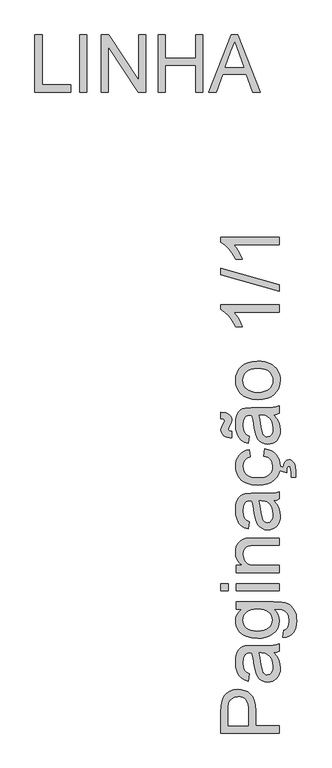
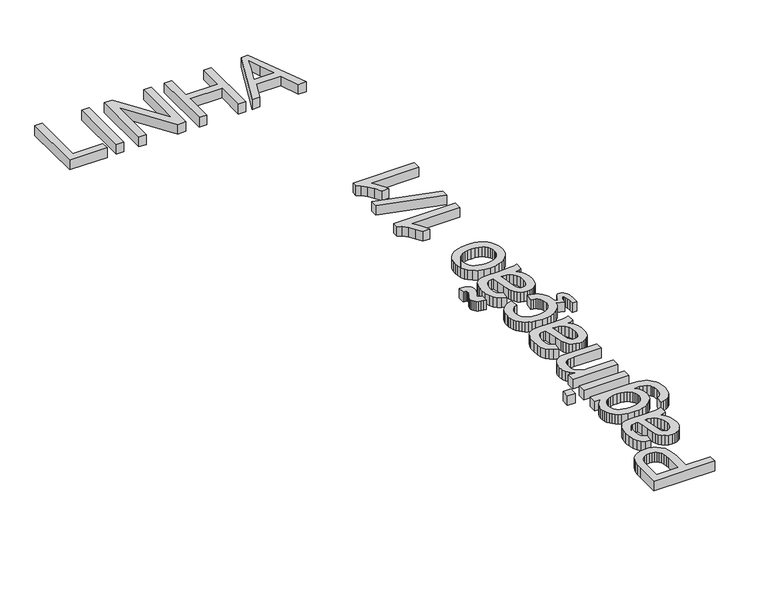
"""IFC4 building model written with IfcOpenShell, lengths in millimetres: proxy geometry, Tabela3D-1linha : Tabela3D-1linha."""

from ifc_helpers import new_model, si_unit, origin, origin_with_axes, place, context, project, spatial, polyline, outline, extrude, source, transform, mapped, element, save


def generic_models_127add15(model_context):
    return source(origin(), model_context, "Body", "SweptSolid", [
        extrude(outline(polyline([(2936.9308298, 7252.3459709), (2334.1929689, 7252.3459709), (2334.1929689, 7475.7239184), (2335.6277087, 7527.7424325), (2339.9319281, 7565.7814308), (2350.6556882, 7605.9357506), (2368.1116889, 7638.9899478), (2393.0908764, 7665.6062102), (2426.3841969, 7686.4467252), (2465.6555999, 7699.9112062), (2508.5690347, 7704.3993666), (2545.5687663, 7701.3689386), (2579.6070479, 7692.2776548), (2610.6838795, 7677.1255152), (2638.7992609, 7655.9125196), (2662.1045853, 7626.7900612), (2678.7512456, 7587.9095328), (2688.7392418, 7539.2709345), (2692.0685738, 7480.8742663), (2692.0685738, 7327.6882035), (2936.9308298, 7327.6882035), (2936.9308298, 7252.3459709)]), holes=[polyline([(2616.7263412, 7327.6882035), (2616.7263412, 7485.2888503), (2614.9972959, 7521.5252268), (2609.8101597, 7552.0962206), (2601.1649328, 7577.0018316), (2589.0616152, 7596.24206), (2573.8221035, 7610.5986549), (2555.7682946, 7620.8533655), (2534.9001885, 7627.0061918), (2511.217785, 7629.057134), (2477.3726415, 7624.2194857), (2448.8249986, 7609.706541), (2427.3406901, 7587.3209216), (2414.6855495, 7558.8652493), (2410.8227885, 7529.8025717), (2409.5352016, 7483.5230167), (2409.5352016, 7327.6882035), (2616.7263412, 7327.6882035)])]), origin_with_axes(), (0.0, 0.0, 1.0), 100.0),
        extrude(outline(polyline([(2880.4241554, 8081.1105296), (2911.2894548, 8045.1132764), (2931.4861763, 8008.0491654), (2942.6330008, 7969.072068), (2946.3486089, 7927.3358557), (2944.1137258, 7893.7896162), (2937.4090764, 7864.3728522), (2926.2346608, 7839.0855635), (2910.590479, 7817.9277503), (2891.4698123, 7801.2213092), (2869.8659421, 7789.288137), (2845.7788685, 7782.1282336), (2819.2085914, 7779.7415992), (2787.97541, 7783.3468427), (2759.6117082, 7794.1625734), (2735.3314965, 7810.8460219), (2716.3487855, 7832.0544189), (2702.0013877, 7856.9784241), (2691.6271155, 7884.808697), (2680.29635, 7949.9973866), (2668.3769734, 8027.0318763), (2654.3974575, 8080.6690712), (2637.6220386, 8081.1105296), (2603.9976242, 8075.9233935), (2591.5448187, 8069.4394733), (2581.9982809, 8060.3619851), (2572.4701372, 8044.671818), (2565.6643203, 8025.5603484), (2560.2196668, 7977.0735014), (2563.8433044, 7932.191898), (2574.7142174, 7900.848352), (2594.8189684, 7879.4744081), (2626.1441203, 7864.5016109), (2616.7263412, 7789.1593783), (2575.5235578, 7802.2375832), (2543.1499422, 7821.753723), (2518.3914839, 7849.5288137), (2500.0341724, 7887.383871), (2488.6666187, 7933.6818201), (2484.8774342, 7986.7855861), (2488.2251603, 8037.7188483), (2498.2683388, 8078.0938973), (2513.3698947, 8108.5361324), (2531.8927531, 8129.670953), (2554.7934073, 8143.687257), (2583.0283505, 8152.7739423), (2648.952804, 8156.4527623), (2742.6891364, 8156.4527623), (2873.5815503, 8160.278735), (2905.9367717, 8165.9441177), (2936.9308298, 8175.2883204), (2936.9308298, 8099.9460878), (2910.7376318, 8087.8795584), (2880.4241554, 8081.1105296)]), holes=[polyline([(2729.7396902, 8081.1105296), (2742.2844662, 8030.4899671), (2752.8426795, 7959.5623184), (2765.0563617, 7894.7415109), (2773.407283, 7877.8741214), (2784.9219894, 7865.3845277), (2798.7175643, 7857.6590058), (2813.9110907, 7855.0838318), (2836.3151042, 7860.6940322), (2854.6724157, 7877.5246335), (2866.9228862, 7905.2077536), (2871.0063763, 7943.3755106), (2866.4998219, 7983.8425301), (2852.9801585, 8019.60066), (2833.0593485, 8048.5897613), (2809.3493539, 8068.7496946), (2784.9219894, 8077.6892271), (2751.0768459, 8080.6690712), (2729.7396902, 8081.1105296)])]), origin_with_axes(), (0.0, 0.0, 1.0), 100.0),
        extrude(outline(polyline([(2974.6019461, 8241.2127739), (2984.0197252, 8316.5550066), (3007.5641729, 8324.8691396), (3023.7509807, 8340.982371), (3036.3325449, 8372.6570108), (3040.5263997, 8414.1173117), (3035.7807219, 8458.3367275), (3029.8486248, 8476.1973984), (3021.5436887, 8491.2253779), (2998.735005, 8514.0340616), (2968.2743758, 8528.0135774), (2935.8639721, 8532.0970675), (2880.4241554, 8533.1639253), (2905.1458255, 8508.0927673), (2922.8041612, 8480.1153416), (2933.3991627, 8449.2316481), (2936.9308298, 8415.4416869), (2932.8197485, 8374.1331373), (2920.4865047, 8337.7634036), (2899.9310982, 8306.3324856), (2871.1535291, 8279.8403834), (2836.6278039, 8258.8205259), (2798.8279288, 8243.806342), (2757.7539041, 8234.7978316), (2713.4057296, 8231.7949949), (2652.5764417, 8237.1844661), (2596.6399843, 8253.3528798), (2571.417075, 8265.3366358), (2549.2383892, 8279.7300188), (2530.1039269, 8296.533029), (2514.0136882, 8315.7456662), (2501.2665771, 8337.0598293), (2492.1614977, 8360.1674171), (2486.69845, 8385.0684296), (2484.8774342, 8411.7628669), (2488.9977125, 8446.996765), (2501.3585475, 8478.9749074), (2521.9599393, 8507.6972942), (2550.8018877, 8533.1639253), (2494.2952132, 8533.1639253), (2494.2952132, 8608.5061579), (2876.4510298, 8608.5061579), (2964.6875264, 8603.35581), (2997.5071989, 8596.9178751), (3022.7944875, 8587.9047662), (3043.1889456, 8576.1003527), (3061.3301265, 8561.2885038), (3077.2180302, 8543.4692197), (3090.8526566, 8522.6425002), (3101.797146, 8499.0198776), (3109.6146384, 8472.812884), (3114.3051338, 8444.0215194), (3115.8686323, 8412.6457837), (3113.6659388, 8375.733424), (3107.0578585, 8342.5458695), (3096.0443913, 8313.0831202), (3080.6255372, 8287.3451761), (3060.782902, 8266.5552449), (3036.4980918, 8251.9365341), (3007.7711065, 8243.4890438), (2974.6019461, 8241.2127739)]), holes=[polyline([(2708.2553816, 8307.1372275), (2745.5080322, 8309.1467829), (2777.3620144, 8315.1754491), (2803.8173284, 8325.2232261), (2824.8739741, 8339.2901139), (2840.9366217, 8356.3920281), (2852.4099414, 8375.5448845), (2859.2939333, 8396.748683), (2861.5885972, 8420.0034236), (2859.3077289, 8443.028238), (2852.4651237, 8464.1308689), (2841.0607819, 8483.3113164), (2825.0947033, 8500.5695805), (2804.2449912, 8514.8296064), (2778.1897489, 8525.0153391), (2746.9289764, 8531.1267788), (2710.4626736, 8533.1639253), (2675.5184826, 8531.0669979), (2645.1452254, 8524.7762158), (2619.3429019, 8514.291579), (2598.1115123, 8499.6130874), (2581.5338299, 8481.9823427), (2569.6926282, 8462.6409468), (2562.5879071, 8441.5888997), (2560.2196668, 8418.8262012), (2562.5511189, 8396.4451803), (2569.5454754, 8375.8024019), (2581.2027361, 8356.8978658), (2597.5229011, 8339.7315722), (2618.432394, 8325.4715464), (2643.8576384, 8315.2858137), (2673.7986343, 8309.174374), (2708.2553816, 8307.1372275)])]), origin_with_axes(), (0.0, 0.0, 1.0), 100.0),
        extrude(outline(polyline([(2409.5352016, 8721.5195068), (2334.1929689, 8721.5195068), (2334.1929689, 8796.8617395), (2409.5352016, 8796.8617395), (2409.5352016, 8721.5195068)])), origin_with_axes(), (0.0, 0.0, 1.0), 100.0),
        extrude(outline(polyline([(2936.9308298, 8721.5195068), (2494.2952132, 8721.5195068), (2494.2952132, 8796.8617395), (2936.9308298, 8796.8617395), (2936.9308298, 8721.5195068)])), origin_with_axes(), (0.0, 0.0, 1.0), 100.0),
        extrude(outline(polyline([(2936.9308298, 8909.8750884), (2494.2952132, 8909.8750884), (2494.2952132, 8985.217321), (2556.0993884, 8985.217321), (2524.9397834, 9011.3921249), (2502.6829227, 9042.8276414), (2489.3288063, 9079.5238704), (2484.8774342, 9121.480812), (2488.4642836, 9158.6184994), (2499.224832, 9192.6291899), (2515.81631, 9220.9928917), (2536.8959483, 9241.1896132), (2562.4085646, 9254.8932175), (2592.2989768, 9263.7775677), (2665.1396118, 9267.7506933), (2936.9308298, 9267.7506933), (2936.9308298, 9192.4084607), (2675.2931549, 9192.4084607), (2636.3344516, 9190.2379569), (2608.6329373, 9183.7264456), (2588.7857037, 9171.7150984), (2573.3898422, 9153.0450872), (2563.5122106, 9129.1143634), (2560.2196668, 9101.3208787), (2562.0682738, 9078.4432171), (2567.6140949, 9057.1934333), (2576.85713, 9037.5715274), (2589.7973792, 9019.5774993), (2607.9063704, 9004.5449213), (2632.6556316, 8993.8073656), (2664.0451629, 8987.3648321), (2702.0749641, 8985.217321), (2936.9308298, 8985.217321), (2936.9308298, 8909.8750884)])), origin_with_axes(), (0.0, 0.0, 1.0), 100.0),
        extrude(outline(polyline([(2880.4241554, 9653.8796354), (2911.2894548, 9617.8823822), (2931.4861763, 9580.8182712), (2942.6330008, 9541.8411738), (2946.3486089, 9500.1049614), (2944.1137258, 9466.558722), (2937.4090764, 9437.141958), (2926.2346608, 9411.8546693), (2910.590479, 9390.6968561), (2891.4698123, 9373.990415), (2869.8659421, 9362.0572427), (2845.7788685, 9354.8973394), (2819.2085914, 9352.510705), (2787.97541, 9356.1159485), (2759.6117082, 9366.9316792), (2735.3314965, 9383.6151277), (2716.3487855, 9404.8235247), (2702.0013877, 9429.7475299), (2691.6271155, 9457.5778028), (2680.29635, 9522.7664923), (2668.3769734, 9599.8009821), (2654.3974575, 9653.438177), (2637.6220386, 9653.8796354), (2603.9976242, 9648.6924993), (2591.5448187, 9642.2085791), (2581.9982809, 9633.1310909), (2572.4701372, 9617.4409238), (2565.6643203, 9598.3294541), (2560.2196668, 9549.8426072), (2563.8433044, 9504.9610038), (2574.7142174, 9473.6174578), (2594.8189684, 9452.2435139), (2626.1441203, 9437.2707167), (2616.7263412, 9361.928484), (2575.5235578, 9375.006689), (2543.1499422, 9394.5228288), (2518.3914839, 9422.2979195), (2500.0341724, 9460.1529768), (2488.6666187, 9506.4509259), (2484.8774342, 9559.5546919), (2488.2251603, 9610.4879541), (2498.2683388, 9650.8630031), (2513.3698947, 9681.3052382), (2531.8927531, 9702.4400588), (2554.7934073, 9716.4563628), (2583.0283505, 9725.5430481), (2648.952804, 9729.221868), (2742.6891364, 9729.221868), (2873.5815503, 9733.0478408), (2905.9367717, 9738.7132235), (2936.9308298, 9748.0574262), (2936.9308298, 9672.7151936), (2910.7376318, 9660.6486641), (2880.4241554, 9653.8796354)]), holes=[polyline([(2729.7396902, 9653.8796354), (2742.2844662, 9603.2590729), (2752.8426795, 9532.3314242), (2765.0563617, 9467.5106167), (2773.407283, 9450.6432272), (2784.9219894, 9438.1536334), (2798.7175643, 9430.4281115), (2813.9110907, 9427.8529376), (2836.3151042, 9433.463138), (2854.6724157, 9450.2937393), (2866.9228862, 9477.9768594), (2871.0063763, 9516.1446164), (2866.4998219, 9556.6116359), (2852.9801585, 9592.3697658), (2833.0593485, 9621.358867), (2809.3493539, 9641.5188004), (2784.9219894, 9650.4583329), (2751.0768459, 9653.438177), (2729.7396902, 9653.8796354)])]), origin_with_axes(), (0.0, 0.0, 1.0), 100.0),
        extrude(outline(polyline([(2776.8285855, 10115.3508102), (2786.2463646, 10190.6930428), (2821.7975609, 10182.4984713), (2853.25607, 10169.6869809), (2880.621892, 10152.2585713), (2903.8950267, 10130.2132428), (2922.4684689, 10104.4798972), (2935.7352134, 10075.9874367), (2943.69526, 10044.7358612), (2946.3486089, 10010.7251707), (2946.1709626, 10008.6973547), (2977.8393077, 9998.2171829), (2984.7554892, 10032.154297), (2997.8520882, 10057.1518785), (3014.958601, 10072.54774), (3033.9045238, 10077.6796939), (3047.8288573, 10075.8218898), (3060.9070622, 10070.2484776), (3073.1391386, 10060.9594572), (3084.5250863, 10047.9548287), (3094.1176093, 10031.1978038), (3100.9694115, 10010.6515943), (3106.4508532, 9958.1916218), (3106.4508532, 9898.7418914), (3059.3619578, 9898.7418914), (3059.3619578, 9940.3861333), (3057.1914541, 9975.8499576), (3050.6799427, 9998.9529469), (3043.3223028, 10008.554667), (3034.493135, 10011.7552403), (3023.8245571, 10006.6048924), (3015.878306, 9987.548605), (3012.2730625, 9943.476342), (2941.1816396, 9963.4708047), (2931.5413586, 9930.5820781), (2913.0322957, 9897.0634298), (2887.1196077, 9867.9133802), (2854.2907381, 9844.3183487), (2815.0331307, 9827.4647548), (2769.3467855, 9817.3525985), (2717.2317023, 9813.9818797), (2650.1852087, 9819.7392329), (2620.0142866, 9826.9359245), (2592.0782476, 9837.0112926), (2566.9381117, 9850.0343152), (2545.1548991, 9866.0739702), (2526.7286096, 9885.1302576), (2511.6592434, 9907.2031773), (2499.9422019, 9931.2948495), (2491.5728865, 9956.4073942), (2486.5512972, 9982.5408114), (2484.8774342, 10009.6951012), (2487.1766966, 10043.1217789), (2494.074484, 10073.3570804), (2505.5707964, 10100.4010056), (2521.6656337, 10124.2535545), (2541.9911139, 10144.5100568), (2566.1793551, 10160.7658425), (2594.2303572, 10173.0209114), (2626.1441203, 10181.2752637), (2635.5618994, 10105.9330311), (2602.6916431, 10092.266215), (2579.1288013, 10070.9842416), (2564.9469504, 10043.2643332), (2560.2196668, 10010.2837123), (2562.5465204, 9984.683724), (2569.5270813, 9961.5945303), (2581.1613494, 9941.0161312), (2597.4493247, 9922.9485267), (2618.7680863, 9908.2378454), (2645.4947133, 9897.7302159), (2677.6292055, 9891.4256382), (2715.1715631, 9889.3241123), (2753.2795393, 9891.379653), (2785.7865121, 9897.5462749), (2812.6924815, 9907.8239782), (2833.9974476, 9922.2127627), (2850.1888539, 9939.9216822), (2861.7541441, 9960.1597905), (2868.6933183, 9982.9270875), (2871.0063763, 10008.2235732), (2865.230629, 10047.2374588), (2858.0109448, 10064.1094468), (2847.903387, 10079.2247982), (2834.7975909, 10092.1604489), (2818.583192, 10102.4933344), (2799.2601902, 10110.2234549), (2776.8285855, 10115.3508102)])), origin_with_axes(), (0.0, 0.0, 1.0), 100.0),
        extrude(outline(polyline([(2447.2063179, 10303.7063917), (2422.7513622, 10305.058358), (2400.8899747, 10309.4085626), (2381.6221552, 10316.7570055), (2364.9479037, 10327.1036866), (2351.4926198, 10339.6208715), (2341.8817026, 10353.7751312), (2336.1151524, 10369.5664659), (2334.1929689, 10386.9948754), (2340.2630219, 10414.8067542), (2358.4731806, 10447.3275226), (2368.5163591, 10464.5076118), (2371.8640852, 10477.7881518), (2369.969493, 10487.0035958), (2364.2857161, 10493.7542304), (2352.9733448, 10498.4447258), (2334.1929689, 10501.4797523), (2334.1929689, 10567.4042058), (2383.6363091, 10560.8375122), (2403.0604784, 10553.512062), (2418.9529806, 10543.4918762), (2431.3138157, 10531.3563688), (2440.1429836, 10517.6849542), (2445.4404843, 10502.4776322), (2447.2063179, 10485.7344029), (2441.4673587, 10457.7385831), (2424.2504814, 10426.1375197), (2413.2140215, 10407.3019615), (2409.5352016, 10394.3525153), (2411.9264345, 10384.346125), (2419.1001334, 10376.3998739), (2430.8355691, 10371.1759496), (2447.2063179, 10369.6308452), (2447.2063179, 10303.7063917)])), origin_with_axes(), (0.0, 0.0, 1.0), 100.0),
        extrude(outline(polyline([(2880.4241554, 10539.1508686), (2911.2894548, 10503.1536154), (2931.4861763, 10466.0895044), (2942.6330008, 10427.112407), (2946.3486089, 10385.3761946), (2944.1137258, 10351.8299552), (2937.4090764, 10322.4131912), (2926.2346608, 10297.1259025), (2910.590479, 10275.9680893), (2891.4698123, 10259.2616482), (2869.8659421, 10247.3284759), (2845.7788685, 10240.1685726), (2819.2085914, 10237.7819382), (2787.97541, 10241.3871817), (2759.6117082, 10252.2029124), (2735.3314965, 10268.8863609), (2716.3487855, 10290.0947579), (2702.0013877, 10315.0187631), (2691.6271155, 10342.849036), (2680.29635, 10408.0377255), (2668.3769734, 10485.0722153), (2654.3974575, 10538.7094102), (2637.6220386, 10539.1508686), (2603.9976242, 10533.9637325), (2591.5448187, 10527.4798123), (2581.9982809, 10518.4023241), (2572.4701372, 10502.712157), (2565.6643203, 10483.6006873), (2560.2196668, 10435.1138404), (2563.8433044, 10390.232237), (2574.7142174, 10358.888691), (2594.8189684, 10337.5147471), (2626.1441203, 10322.5419499), (2616.7263412, 10247.1997172), (2575.5235578, 10260.2779222), (2543.1499422, 10279.794062), (2518.3914839, 10307.5691526), (2500.0341724, 10345.42421), (2488.6666187, 10391.722159), (2484.8774342, 10444.825925), (2488.2251603, 10495.7591873), (2498.2683388, 10536.1342363), (2513.3698947, 10566.5764714), (2531.8927531, 10587.711292), (2554.7934073, 10601.727596), (2583.0283505, 10610.8142813), (2648.952804, 10614.4931012), (2742.6891364, 10614.4931012), (2873.5815503, 10618.319074), (2905.9367717, 10623.9844567), (2936.9308298, 10633.3286594), (2936.9308298, 10557.9864268), (2910.7376318, 10545.9198973), (2880.4241554, 10539.1508686)]), holes=[polyline([(2729.7396902, 10539.1508686), (2742.2844662, 10488.5303061), (2752.8426795, 10417.6026574), (2765.0563617, 10352.7818499), (2773.407283, 10335.9144604), (2784.9219894, 10323.4248666), (2798.7175643, 10315.6993447), (2813.9110907, 10313.1241708), (2836.3151042, 10318.7343712), (2854.6724157, 10335.5649725), (2866.9228862, 10363.2480926), (2871.0063763, 10401.4158496), (2866.4998219, 10441.8828691), (2852.9801585, 10477.640999), (2833.0593485, 10506.6301002), (2809.3493539, 10526.7900336), (2784.9219894, 10535.7295661), (2751.0768459, 10538.7094102), (2729.7396902, 10539.1508686)])]), origin_with_axes(), (0.0, 0.0, 1.0), 100.0),
        extrude(outline(polyline([(2715.6130215, 10699.2531129), (2658.2878096, 10703.327406), (2608.8904547, 10715.5502853), (2567.4209568, 10735.9217508), (2533.8793159, 10764.4418025), (2512.4409927, 10793.1549922), (2497.1279046, 10824.8480261), (2487.9400518, 10859.5209041), (2484.8774342, 10897.1736263), (2488.6068379, 10938.7396932), (2499.7950491, 10976.3234376), (2518.4420677, 11009.9248593), (2544.5478938, 11039.5439585), (2577.2296105, 11063.7184041), (2615.6043012, 11080.9858652), (2659.6719656, 11091.3463419), (2709.432604, 11094.7998341), (2749.7616677, 11093.2731238), (2785.5473888, 11088.692993), (2816.7897673, 11081.0594416), (2843.4888031, 11070.3724696), (2866.5504056, 11056.7654344), (2886.8804844, 11040.3716929), (2904.4790393, 11021.1912454), (2919.3460705, 10999.2240918), (2931.159681, 10975.3255577), (2939.5979743, 10950.3509687), (2944.6609503, 10924.3003249), (2946.3486089, 10897.1736263), (2942.6330008, 10855.0005541), (2931.4861763, 10817.0673219), (2912.9081356, 10783.3739296), (2886.8988785, 10753.9203774), (2853.8998635, 10730.0034492), (2814.352549, 10712.919929), (2768.256935, 10702.6698169), (2715.6130215, 10699.2531129)]), holes=[polyline([(2715.4658687, 10774.5953455), (2752.0103464, 10776.7750463), (2783.6527965, 10783.3141488), (2810.3932191, 10794.2126529), (2832.231614, 10809.4705587), (2849.1955725, 10828.0302053), (2861.3126857, 10848.8339322), (2868.5829537, 10871.8817391), (2871.0063763, 10897.1736263), (2868.5691581, 10922.3367548), (2861.2575034, 10945.2925913), (2849.0714123, 10966.0411358), (2832.0108848, 10984.5823884), (2809.9563592, 10999.8402941), (2782.7882739, 11010.7387982), (2750.5066288, 11017.2779007), (2713.111424, 11019.4576015), (2677.7257746, 11017.2641051), (2646.9110589, 11010.6836159), (2620.6672771, 10999.7161339), (2598.9944291, 10984.3616592), (2582.0304706, 10965.7514287), (2569.9133574, 10945.0166798), (2562.6430894, 10922.1574123), (2560.2196668, 10897.1736263), (2562.6338924, 10871.8817391), (2569.8765692, 10848.8339322), (2581.9476971, 10828.0302053), (2598.8472763, 10809.4705587), (2620.6212919, 10794.2126529), (2647.3157291, 10783.3141488), (2678.9305881, 10776.7750463), (2715.4658687, 10774.5953455)])]), origin_with_axes(), (0.0, 0.0, 1.0), 100.0),
        extrude(outline(polyline([(2936.9308298, 11678.7021369), (2936.9308298, 11603.3599043), (2467.2190984, 11603.3599043), (2492.6581384, 11571.9059937), (2518.0603901, 11531.9907972), (2540.2620685, 11490.0890379), (2556.0993884, 11452.675439), (2484.8774342, 11452.675439), (2452.6877596, 11511.849258), (2414.3912439, 11563.113614), (2373.666707, 11603.5254512), (2334.1929689, 11630.1417135), (2334.1929689, 11678.7021369), (2936.9308298, 11678.7021369)])), origin_with_axes(), (0.0, 0.0, 1.0), 100.0),
        extrude(outline(polyline([(2936.9308298, 11819.968823), (2334.1929689, 11989.4888464), (2334.1929689, 12057.4734391), (2936.9308298, 11887.9534157), (2936.9308298, 11819.968823)])), origin_with_axes(), (0.0, 0.0, 1.0), 100.0),
        extrude(outline(polyline([(2936.9308298, 12375.6177885), (2936.9308298, 12300.2755559), (2467.2190984, 12300.2755559), (2492.6581384, 12268.8216453), (2518.0603901, 12228.9064489), (2540.2620685, 12187.0046896), (2556.0993884, 12149.5910907), (2484.8774342, 12149.5910907), (2452.6877596, 12208.7649096), (2414.3912439, 12260.0292657), (2373.666707, 12300.4411028), (2334.1929689, 12327.0573652), (2334.1929689, 12375.6177885), (2936.9308298, 12375.6177885)])), origin_with_axes(), (0.0, 0.0, 1.0), 100.0),
        extrude(outline(polyline([(411.2175733, 13876.9139754), (411.2175733, 14467.6832062), (485.0637272, 14467.6832062), (485.0637272, 13950.7601293), (780.4483426, 13950.7601293), (780.4483426, 13876.9139754), (411.2175733, 13876.9139754)])), origin_with_axes(), (0.0, 0.0, 1.0), 100.0),
        extrude(outline(polyline([(872.7560349, 13876.9139754), (872.7560349, 14467.6832062), (946.6021887, 14467.6832062), (946.6021887, 13876.9139754), (872.7560349, 13876.9139754)])), origin_with_axes(), (0.0, 0.0, 1.0), 100.0),
        extrude(outline(polyline([(1094.2944964, 13876.9139754), (1094.2944964, 14467.6832062), (1173.332958, 14467.6832062), (1481.9868041, 13999.65436), (1481.9868041, 14467.6832062), (1555.832958, 14467.6832062), (1555.832958, 13876.9139754), (1476.7944964, 13876.9139754), (1168.1406503, 14345.0870523), (1168.1406503, 13876.9139754), (1094.2944964, 13876.9139754)])), origin_with_axes(), (0.0, 0.0, 1.0), 100.0),
        extrude(outline(polyline([(1685.0637272, 13876.9139754), (1685.0637272, 14467.6832062), (1758.909881, 14467.6832062), (1758.909881, 14227.6832062), (2072.7560349, 14227.6832062), (2072.7560349, 14467.6832062), (2146.6021887, 14467.6832062), (2146.6021887, 13876.9139754), (2072.7560349, 13876.9139754), (2072.7560349, 14153.8370523), (1758.909881, 14153.8370523), (1758.909881, 13876.9139754), (1685.0637272, 13876.9139754)])), origin_with_axes(), (0.0, 0.0, 1.0), 100.0),
        extrude(outline(polyline([(2207.034881, 13876.9139754), (2442.8521887, 14467.6832062), (2505.7368041, 14467.6832062), (2741.5541118, 13876.9139754), (2663.5252657, 13876.9139754), (2595.8810349, 14061.52936), (2352.5637272, 14061.52936), (2285.0637272, 13876.9139754), (2207.034881, 13876.9139754)]), holes=[polyline([(2379.6791118, 14135.3755139), (2568.909881, 14135.3755139), (2515.6887272, 14280.6158985), (2474.2944964, 14393.8370523), (2437.5156503, 14293.3082062), (2379.6791118, 14135.3755139)])]), origin_with_axes(), (0.0, 0.0, 1.0), 100.0),
    ])


if __name__ == "__main__":
    model = new_model("IFC4")
    model_context = context("Model", 3, world=origin())
    ifc_project = project(units=[si_unit("LENGTHUNIT", "METRE", prefix="MILLI")], contexts=[model_context])
    site = spatial("IfcSite", under=ifc_project)
    building = spatial("IfcBuilding", under=site)
    placement = place(None, origin())
    generic_models_shape = generic_models_127add15(model_context)
    element("IfcBuildingElementProxy", 1, Name="Tabela3D-1linha : Tabela3D-1linha", ObjectType="Tabela3D-1linha : Tabela3D-1linha", at=placement, inside=building, context=model_context, shape_type="MappedRepresentation", body=[
        mapped(generic_models_shape, transform((0.0, 0.0, 0.0), x_axis=(1.0, 0.0, 0.0), y_axis=(0.0, 1.0, 0.0), z_axis=(0.0, 0.0, 1.0))),
    ])
    save(model, "model.ifc")
